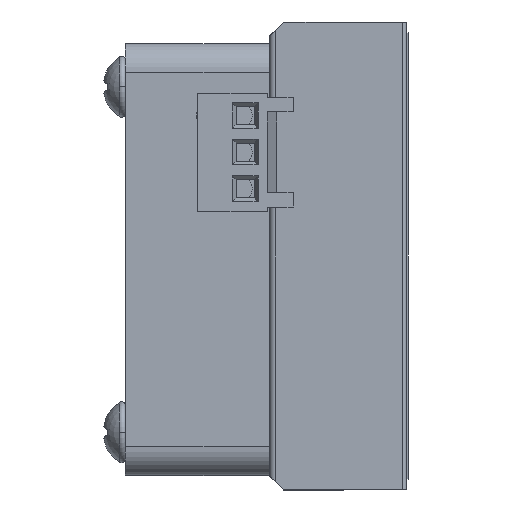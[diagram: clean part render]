
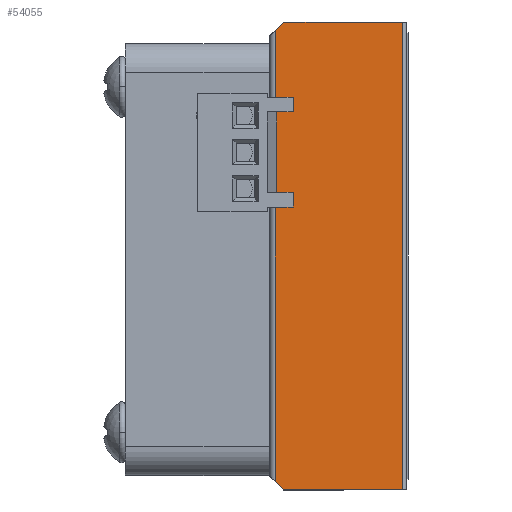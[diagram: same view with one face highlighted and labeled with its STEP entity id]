
A CAD part, left-side view. The second image highlights one B-rep face of the part: STEP entity #54055.
In plain terms, the highlighted planar face has unit normal (-1, 0, 0).
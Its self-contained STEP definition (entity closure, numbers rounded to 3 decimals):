
#182 = EDGE_CURVE ( 'NONE', #17787, #6932, #60522, .T. ) ;
#1305 = ORIENTED_EDGE ( 'NONE', *, *, #63588, .T. ) ;
#1413 = VECTOR ( 'NONE', #44959, 1000. ) ;
#4715 = DIRECTION ( 'NONE',  ( 0., -1., 0. ) ) ;
#5223 = DIRECTION ( 'NONE',  ( 0., -0.707, -0.707 ) ) ;
#5514 = CARTESIAN_POINT ( 'NONE',  ( -16.4, 0.25, -16.25 ) ) ;
#6932 = VERTEX_POINT ( 'NONE', #16736 ) ;
#8603 = CARTESIAN_POINT ( 'NONE',  ( -16.4, 1.7, 16.25 ) ) ;
#9280 = LINE ( 'NONE', #31129, #38117 ) ;
#10911 = DIRECTION ( 'NONE',  ( 0., 0.707, -0.707 ) ) ;
#10923 = CARTESIAN_POINT ( 'NONE',  ( -16.4, 9.1, -15.65 ) ) ;
#12719 = FACE_OUTER_BOUND ( 'NONE', #44793, .T. ) ;
#14492 = ORIENTED_EDGE ( 'NONE', *, *, #182, .F. ) ;
#16736 = CARTESIAN_POINT ( 'NONE',  ( -16.4, 9.1, 15.65 ) ) ;
#17243 = CARTESIAN_POINT ( 'NONE',  ( -16.4, 0.25, 16.25 ) ) ;
#17593 = AXIS2_PLACEMENT_3D ( 'NONE', #59216, #24825, #24471 ) ;
#17787 = VERTEX_POINT ( 'NONE', #10923 ) ;
#18306 = EDGE_CURVE ( 'NONE', #19076, #58906, #20529, .T. ) ;
#19076 = VERTEX_POINT ( 'NONE', #42872 ) ;
#20012 = LINE ( 'NONE', #8603, #1413 ) ;
#20070 = DIRECTION ( 'NONE',  ( 0., 0., 1. ) ) ;
#20320 = LINE ( 'NONE', #40905, #22708 ) ;
#20529 = LINE ( 'NONE', #50866, #53367 ) ;
#21816 = PLANE ( 'NONE',  #17593 ) ;
#22708 = VECTOR ( 'NONE', #10911, 1000. ) ;
#24471 = DIRECTION ( 'NONE',  ( 0., 0., -1. ) ) ;
#24825 = DIRECTION ( 'NONE',  ( 1., 0., 0. ) ) ;
#25048 = CARTESIAN_POINT ( 'NONE',  ( -16.4, 8.5, 16.25 ) ) ;
#29849 = ORIENTED_EDGE ( 'NONE', *, *, #56178, .T. ) ;
#31129 = CARTESIAN_POINT ( 'NONE',  ( -16.4, 9.5, -15.25 ) ) ;
#38117 = VECTOR ( 'NONE', #5223, 1000. ) ;
#40900 = DIRECTION ( 'NONE',  ( 0., 0., 1. ) ) ;
#40905 = CARTESIAN_POINT ( 'NONE',  ( -16.4, 9.5, 15.25 ) ) ;
#42872 = CARTESIAN_POINT ( 'NONE',  ( -16.4, 8.5, -16.25 ) ) ;
#44793 = EDGE_LOOP ( 'NONE', ( #14492, #29849, #55539, #56934, #64053, #1305 ) ) ;
#44959 = DIRECTION ( 'NONE',  ( 0., -1., 0. ) ) ;
#45358 = CARTESIAN_POINT ( 'NONE',  ( -16.4, 9.1, -24.091 ) ) ;
#49838 = VECTOR ( 'NONE', #40900, 1000. ) ;
#50866 = CARTESIAN_POINT ( 'NONE',  ( -16.4, 1.7, -16.25 ) ) ;
#51502 = EDGE_CURVE ( 'NONE', #63502, #65226, #20012, .T. ) ;
#51881 = CARTESIAN_POINT ( 'NONE',  ( -16.4, 0.25, -16.25 ) ) ;
#52233 = EDGE_CURVE ( 'NONE', #58906, #65226, #56058, .T. ) ;
#53367 = VECTOR ( 'NONE', #4715, 1000. ) ;
#54055 = ADVANCED_FACE ( 'NONE', ( #12719 ), #21816, .F. ) ;
#55539 = ORIENTED_EDGE ( 'NONE', *, *, #18306, .T. ) ;
#56058 = LINE ( 'NONE', #5514, #49838 ) ;
#56178 = EDGE_CURVE ( 'NONE', #17787, #19076, #9280, .T. ) ;
#56934 = ORIENTED_EDGE ( 'NONE', *, *, #52233, .T. ) ;
#58906 = VERTEX_POINT ( 'NONE', #51881 ) ;
#59216 = CARTESIAN_POINT ( 'NONE',  ( -16.4, 1.7, -16.25 ) ) ;
#60522 = LINE ( 'NONE', #45358, #64653 ) ;
#63502 = VERTEX_POINT ( 'NONE', #25048 ) ;
#63588 = EDGE_CURVE ( 'NONE', #63502, #6932, #20320, .T. ) ;
#64053 = ORIENTED_EDGE ( 'NONE', *, *, #51502, .F. ) ;
#64653 = VECTOR ( 'NONE', #20070, 1000. ) ;
#65226 = VERTEX_POINT ( 'NONE', #17243 ) ;
